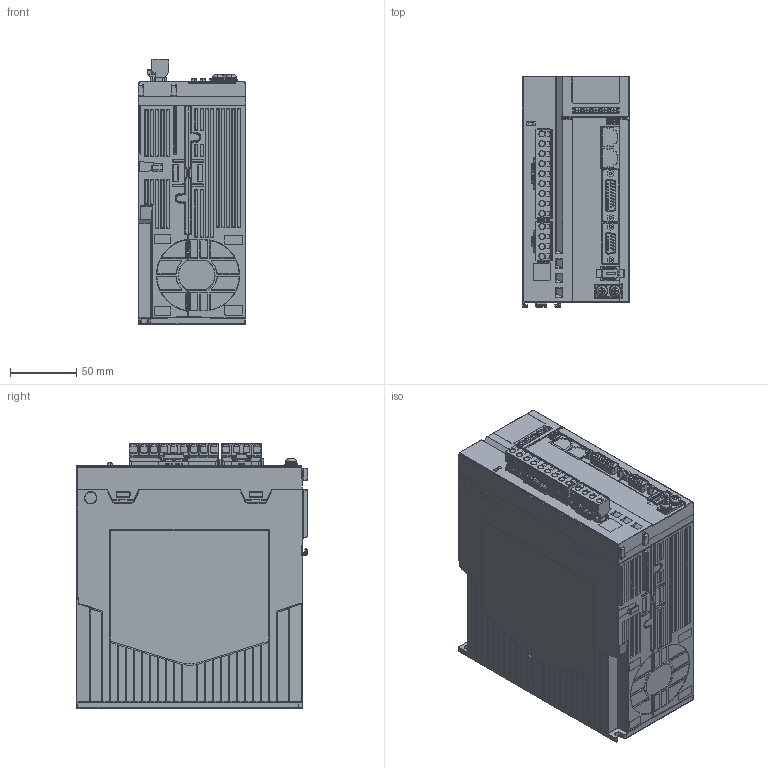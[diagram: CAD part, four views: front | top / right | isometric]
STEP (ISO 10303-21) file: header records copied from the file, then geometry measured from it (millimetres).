
FILE_DESCRIPTION((''),'2;1');
FILE_NAME('SV670-INT-SIZE-D_ASM_1_ASM','2024-02-03T',('10009991'),(''),'CREO PARAMETRIC BY PTC INC, 2015290','CREO PARAMETRIC BY PTC INC, 2015290','');
FILE_SCHEMA(('AUTOMOTIVE_DESIGN { 1 0 10303 214 1 1 1 1 }'));
Products named in the file (6): SV670-INT-SIZE-D_1; SV670-INT-SIZE-D-D_ASM_1_ASM; 9EDGK-7_5-04P_20180409_3_3_1; 9EDGK-7_5-09P_20180409_3_3_1; DZ1_ASM_3_ASM_2_ASM_1_ASM; SV670-INT-SIZE-D_ASM_1_ASM
Assembly tree (5 placements, depth 3):
  SV670-INT-SIZE-D_ASM_1_ASM
    SV670-INT-SIZE-D-D_ASM_1_ASM
      SV670-INT-SIZE-D_1
    DZ1_ASM_3_ASM_2_ASM_1_ASM
      9EDGK-7_5-04P_20180409_3_3_1
      9EDGK-7_5-09P_20180409_3_3_1
Bounding box: 81 x 174.3 x 199.5 mm (x, y, z)
Volume: 22002.8 mm3; surface area: 142133.2 mm2
Topology: 3 solids, 8 shells, 5188 faces, 13936 edges, 8896 vertices
Faces by surface type: plane 3302, cylinder 1293, bspline 225, torus 131, sphere 109, extrusion 70, cone 58
Entity records: 230796 total; most frequent: CARTESIAN_POINT 64209, ORIENTED_EDGE 27582, DIRECTION 24470, EDGE_CURVE 13800, VECTOR 10120, PRESENTATION_STYLE_ASSIGNMENT 10092, STYLED_ITEM 10092, LINE 10050
